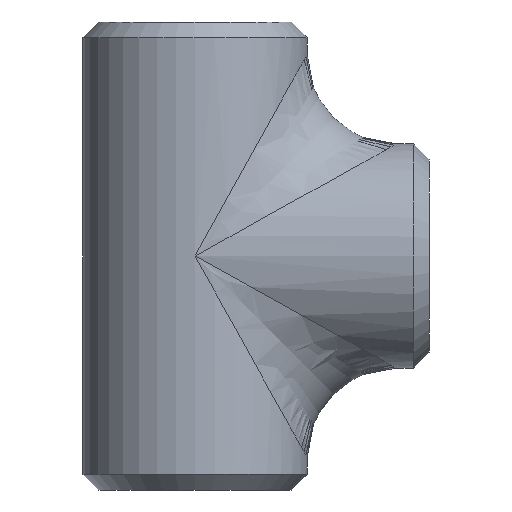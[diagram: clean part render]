
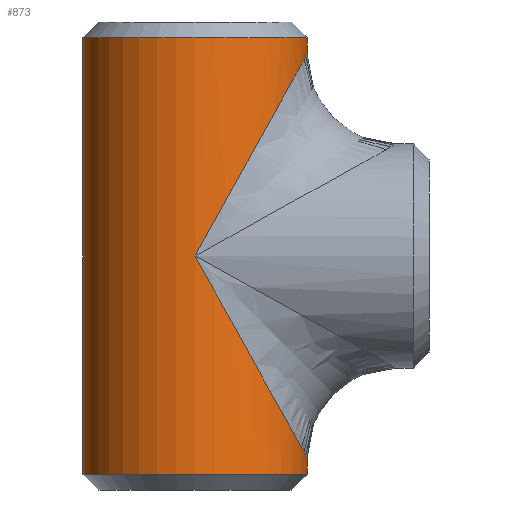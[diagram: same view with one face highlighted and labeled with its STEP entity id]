
A CAD part, front view. The second image highlights one B-rep face of the part: STEP entity #873.
In plain terms, the highlighted cylindrical face has radius 36.5 mm (diameter 73 mm), a partial arc.
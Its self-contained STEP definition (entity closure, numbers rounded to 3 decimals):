
#1 = CARTESIAN_POINT ( 'NONE',  ( 0., 0., -71.05 ) ) ;
#17 = AXIS2_PLACEMENT_3D ( 'NONE', #814, #779, #279 ) ;
#20 = CARTESIAN_POINT ( 'NONE',  ( 36.5, 0., -65.7 ) ) ;
#59 = CARTESIAN_POINT ( 'NONE',  ( 36.5, 0., -65.7 ) ) ;
#75 = CARTESIAN_POINT ( 'NONE',  ( -36.5, 0., 71.05 ) ) ;
#80 = ORIENTED_EDGE ( 'NONE', *, *, #727, .T. ) ;
#94 = CARTESIAN_POINT ( 'NONE',  ( 36.5, 0., 76.2 ) ) ;
#112 = DIRECTION ( 'NONE',  ( 1., 0., 0. ) ) ;
#142 = ORIENTED_EDGE ( 'NONE', *, *, #189, .T. ) ;
#150 = EDGE_CURVE ( 'NONE', #1350, #1299, #562, .T. ) ;
#175 = EDGE_CURVE ( 'NONE', #671, #1195, #760, .T. ) ;
#177 = FACE_OUTER_BOUND ( 'NONE', #1262, .T. ) ;
#189 = EDGE_CURVE ( 'NONE', #797, #635, #1217, .T. ) ;
#205 = CARTESIAN_POINT ( 'NONE',  ( 36.5, 0., 71.05 ) ) ;
#226 = CARTESIAN_POINT ( 'NONE',  ( 0., -36.5, 0. ) ) ;
#279 = DIRECTION ( 'NONE',  ( -1., 0., 0. ) ) ;
#295 = CARTESIAN_POINT ( 'NONE',  ( 36.5, 0., -71.05 ) ) ;
#315 = CARTESIAN_POINT ( 'NONE',  ( 36.5, -21.381, -65.7 ) ) ;
#320 = DIRECTION ( 'NONE',  ( 1., 0., 0. ) ) ;
#386 = CARTESIAN_POINT ( 'NONE',  ( 36.5, 0., 65.7 ) ) ;
#401 = ORIENTED_EDGE ( 'NONE', *, *, #1335, .F. ) ;
#410 = CARTESIAN_POINT ( 'NONE',  ( 36.5, -21.381, 65.7 ) ) ;
#528 = ORIENTED_EDGE ( 'NONE', *, *, #150, .T. ) ;
#553 = DIRECTION ( 'NONE',  ( 0., 0., 1. ) ) ;
#562 = CIRCLE ( 'NONE', #736, 36.5 ) ;
#600 = LINE ( 'NONE', #1155, #708 ) ;
#607 = CYLINDRICAL_SURFACE ( 'NONE', #17, 36.5 ) ;
#635 = VERTEX_POINT ( 'NONE', #967 ) ;
#671 = VERTEX_POINT ( 'NONE', #205 ) ;
#673 = CARTESIAN_POINT ( 'NONE',  ( -36.5, 0., 76.2 ) ) ;
#708 = VECTOR ( 'NONE', #1031, 1000. ) ;
#719 = DIRECTION ( 'NONE',  ( 0., 0., -1. ) ) ;
#724 = ORIENTED_EDGE ( 'NONE', *, *, #780, .T. ) ;
#727 = EDGE_CURVE ( 'NONE', #1069, #797, #957, .T. ) ;
#736 = AXIS2_PLACEMENT_3D ( 'NONE', #1, #553, #320 ) ;
#760 = CIRCLE ( 'NONE', #988, 36.5 ) ;
#768 = DIRECTION ( 'NONE',  ( 0., 0., -1. ) ) ;
#779 = DIRECTION ( 'NONE',  ( 0., 0., -1. ) ) ;
#780 = EDGE_CURVE ( 'NONE', #1195, #1350, #1038, .T. ) ;
#797 = VERTEX_POINT ( 'NONE', #1149 ) ;
#814 = CARTESIAN_POINT ( 'NONE',  ( 0., 0., 76.2 ) ) ;
#831 = EDGE_CURVE ( 'NONE', #1069, #1299, #600, .T. ) ;
#843 = ORIENTED_EDGE ( 'NONE', *, *, #175, .T. ) ;
#873 = ADVANCED_FACE ( 'NONE', ( #177 ), #607, .T. ) ;
#939 = VECTOR ( 'NONE', #1345, 1000. ) ;
#944 = VECTOR ( 'NONE', #719, 1000. ) ;
#952 = CARTESIAN_POINT ( 'NONE',  ( -36.5, 0., -71.05 ) ) ;
#957 =( BOUNDED_CURVE ( )  B_SPLINE_CURVE ( 3, ( #20, #315, #1304, #226 ),
 .UNSPECIFIED., .F., .F. ) 
 B_SPLINE_CURVE_WITH_KNOTS ( ( 4, 4 ),
 ( 3.142, 4.712 ),
 .UNSPECIFIED. ) 
 CURVE ( )  GEOMETRIC_REPRESENTATION_ITEM ( )  RATIONAL_B_SPLINE_CURVE ( ( 1., 0.805, 0.805, 1. ) ) 
 REPRESENTATION_ITEM ( '' )  );
#967 = CARTESIAN_POINT ( 'NONE',  ( 36.5, 0., 65.7 ) ) ;
#988 = AXIS2_PLACEMENT_3D ( 'NONE', #1081, #768, #112 ) ;
#1031 = DIRECTION ( 'NONE',  ( 0., 0., -1. ) ) ;
#1038 = LINE ( 'NONE', #673, #939 ) ;
#1043 = CARTESIAN_POINT ( 'NONE',  ( 21.381, -36.5, 38.486 ) ) ;
#1056 = CARTESIAN_POINT ( 'NONE',  ( 0., -36.5, 0. ) ) ;
#1060 = LINE ( 'NONE', #94, #944 ) ;
#1069 = VERTEX_POINT ( 'NONE', #59 ) ;
#1081 = CARTESIAN_POINT ( 'NONE',  ( 0., 0., 71.05 ) ) ;
#1098 = ORIENTED_EDGE ( 'NONE', *, *, #831, .F. ) ;
#1149 = CARTESIAN_POINT ( 'NONE',  ( 0., -36.5, 0. ) ) ;
#1155 = CARTESIAN_POINT ( 'NONE',  ( 36.5, 0., 76.2 ) ) ;
#1195 = VERTEX_POINT ( 'NONE', #75 ) ;
#1217 =( BOUNDED_CURVE ( )  B_SPLINE_CURVE ( 3, ( #1056, #1043, #410, #386 ),
 .UNSPECIFIED., .F., .T. ) 
 B_SPLINE_CURVE_WITH_KNOTS ( ( 4, 4 ),
 ( 1.571, 3.142 ),
 .UNSPECIFIED. ) 
 CURVE ( )  GEOMETRIC_REPRESENTATION_ITEM ( )  RATIONAL_B_SPLINE_CURVE ( ( 1., 0.805, 0.805, 1. ) ) 
 REPRESENTATION_ITEM ( '' )  );
#1262 = EDGE_LOOP ( 'NONE', ( #401, #843, #724, #528, #1098, #80, #142 ) ) ;
#1299 = VERTEX_POINT ( 'NONE', #295 ) ;
#1304 = CARTESIAN_POINT ( 'NONE',  ( 21.381, -36.5, -38.486 ) ) ;
#1335 = EDGE_CURVE ( 'NONE', #671, #635, #1060, .T. ) ;
#1345 = DIRECTION ( 'NONE',  ( 0., 0., -1. ) ) ;
#1350 = VERTEX_POINT ( 'NONE', #952 ) ;
